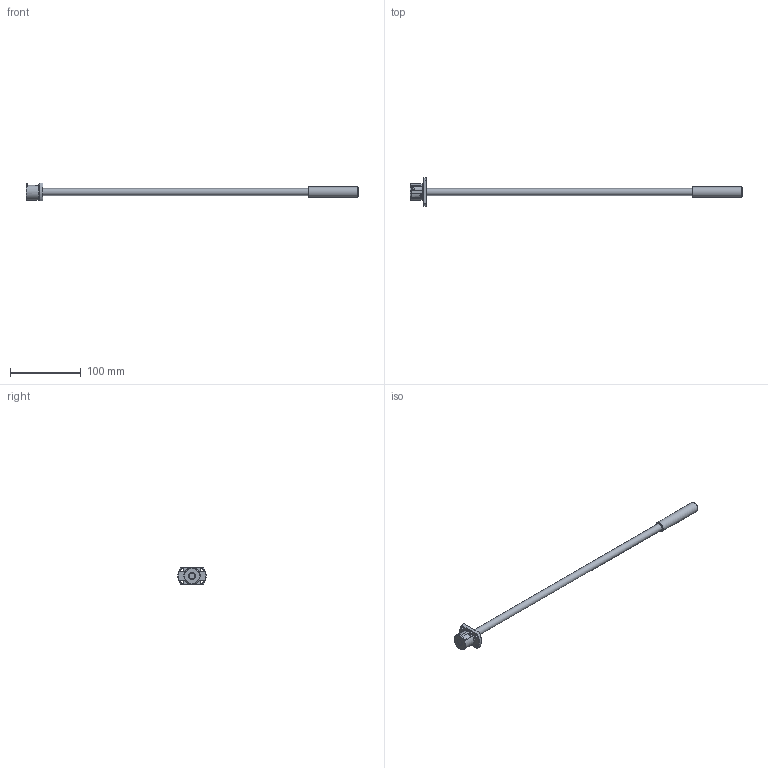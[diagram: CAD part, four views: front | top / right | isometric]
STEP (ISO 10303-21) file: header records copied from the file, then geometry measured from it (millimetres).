
FILE_DESCRIPTION( ( 'STEP AP203' ), '1' );
FILE_NAME( 'e:/temp/worker_97/temp/exporttempdir_3888_1470_4fDz2/format_0/SSRT1002-396R470C70X(0None).stp', '2021-10-19T08:01:34', ( 'License CC BY-ND 4.0' ), ( 'CADENAS' ), ' ', 'PARTsolutions', ' ' );
FILE_SCHEMA( ( 'CONFIG_CONTROL_DESIGN' ) );
Length unit declared in the file: millimetre
Products named in the file (3): SSRT1002-396R470C70X(0None); _SSRT1002-396R470Ct7NoneShaft; _SSRT1002Nut
Assembly tree (2 placements, depth 2):
  SSRT1002-396R470C70X(0None)
    _SSRT1002-396R470Ct7NoneShaft
    _SSRT1002Nut
Bounding box: 470 x 40 x 25 mm (x, y, z)
Volume: 52296.3 mm3; surface area: 20572.1 mm2
Topology: 2 solids, 2 shells, 50 faces, 126 edges, 84 vertices
Faces by surface type: plane 24, cylinder 15, cone 11
Full cylindrical faces by diameter (mm): 1.4 x2, 4.5 x4, 10 x2, 14.2 x1, 22.5 x1, 23 x1
Entity records: 1568 total; most frequent: CARTESIAN_POINT 371, DIRECTION 232, ORIENTED_EDGE 194, AXIS2_PLACEMENT_3D 100, EDGE_CURVE 97, EDGE_LOOP 82, VERTEX_POINT 73, FACE_OUTER_BOUND 61
